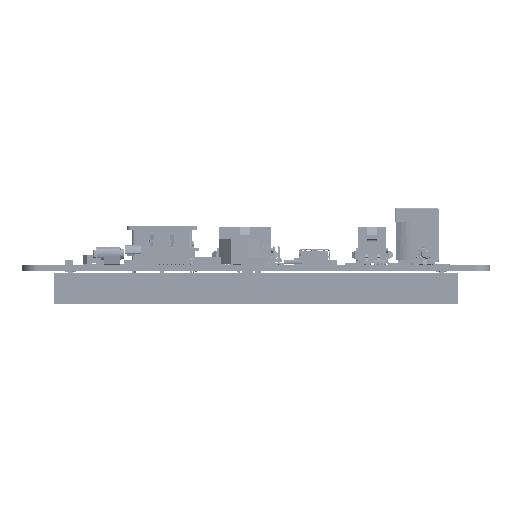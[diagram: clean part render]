
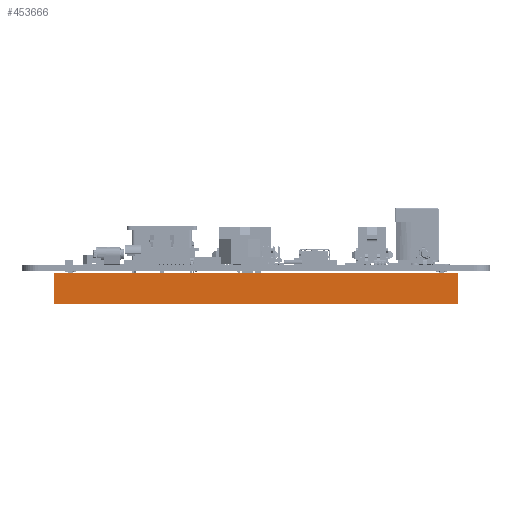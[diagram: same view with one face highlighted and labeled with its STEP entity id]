
A CAD part, left-side view. The second image highlights one B-rep face of the part: STEP entity #453666.
In plain terms, the highlighted planar face has unit normal (-1, 0, 0) as drawn and (1, 0, 0) by its records, which use the part's own axes.
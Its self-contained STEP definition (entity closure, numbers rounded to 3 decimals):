
#43033 = VERTEX_POINT ( 'NONE', #454979 ) ;
#46035 = EDGE_LOOP ( 'NONE', ( #460489, #92272, #612640, #518428 ) ) ;
#47228 = LINE ( 'NONE', #220658, #167644 ) ;
#48315 = EDGE_CURVE ( 'NONE', #43033, #81843, #266946, .T. ) ;
#68493 = PLANE ( 'NONE',  #77841 ) ;
#77841 = AXIS2_PLACEMENT_3D ( 'NONE', #427583, #274923, #326630 ) ;
#81843 = VERTEX_POINT ( 'NONE', #195857 ) ;
#92272 = ORIENTED_EDGE ( 'NONE', *, *, #48315, .F. ) ;
#94078 = VECTOR ( 'NONE', #632753, 1000. ) ;
#121788 = DIRECTION ( 'NONE',  ( 0., 0., -1. ) ) ;
#166295 = LINE ( 'NONE', #634969, #94078 ) ;
#167644 = VECTOR ( 'NONE', #121788, 1000. ) ;
#195857 = CARTESIAN_POINT ( 'NONE',  ( 82.45, 50., 0. ) ) ;
#205328 = FACE_OUTER_BOUND ( 'NONE', #46035, .T. ) ;
#212885 = EDGE_CURVE ( 'NONE', #662084, #81843, #381184, .T. ) ;
#220658 = CARTESIAN_POINT ( 'NONE',  ( 82.45, -50., 7.55 ) ) ;
#222573 = CARTESIAN_POINT ( 'NONE',  ( 82.45, -50., 0. ) ) ;
#227904 = DIRECTION ( 'NONE',  ( 0., 1., 0. ) ) ;
#266946 = LINE ( 'NONE', #320715, #299277 ) ;
#274923 = DIRECTION ( 'NONE',  ( -1., 0., 0. ) ) ;
#299277 = VECTOR ( 'NONE', #524608, 1000. ) ;
#320715 = CARTESIAN_POINT ( 'NONE',  ( 82.45, 50., 7.55 ) ) ;
#326630 = DIRECTION ( 'NONE',  ( 0., -1., 0. ) ) ;
#381184 = LINE ( 'NONE', #490077, #533594 ) ;
#427583 = CARTESIAN_POINT ( 'NONE',  ( 82.45, 50., 7.55 ) ) ;
#453666 = ADVANCED_FACE ( 'NONE', ( #205328 ), #68493, .F. ) ;
#454979 = CARTESIAN_POINT ( 'NONE',  ( 82.45, 50., 7.55 ) ) ;
#460489 = ORIENTED_EDGE ( 'NONE', *, *, #212885, .T. ) ;
#490077 = CARTESIAN_POINT ( 'NONE',  ( 82.45, 50., 0. ) ) ;
#518428 = ORIENTED_EDGE ( 'NONE', *, *, #591278, .T. ) ;
#524608 = DIRECTION ( 'NONE',  ( 0., 0., -1. ) ) ;
#533594 = VECTOR ( 'NONE', #227904, 1000. ) ;
#556364 = CARTESIAN_POINT ( 'NONE',  ( 82.45, -50., 7.55 ) ) ;
#566104 = VERTEX_POINT ( 'NONE', #556364 ) ;
#591278 = EDGE_CURVE ( 'NONE', #566104, #662084, #47228, .T. ) ;
#612640 = ORIENTED_EDGE ( 'NONE', *, *, #647053, .F. ) ;
#632753 = DIRECTION ( 'NONE',  ( 0., 1., 0. ) ) ;
#634969 = CARTESIAN_POINT ( 'NONE',  ( 82.45, 50., 7.55 ) ) ;
#647053 = EDGE_CURVE ( 'NONE', #566104, #43033, #166295, .T. ) ;
#662084 = VERTEX_POINT ( 'NONE', #222573 ) ;
